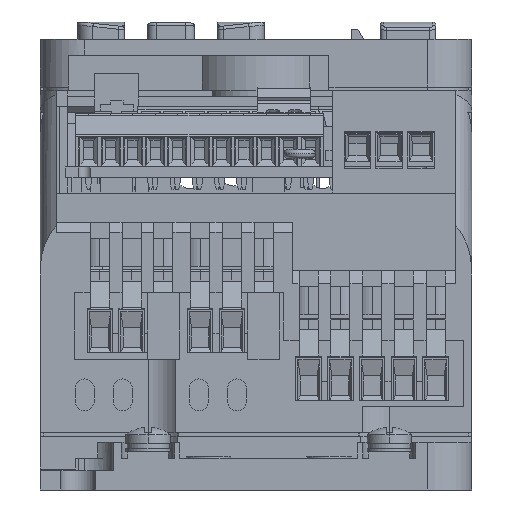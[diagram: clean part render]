
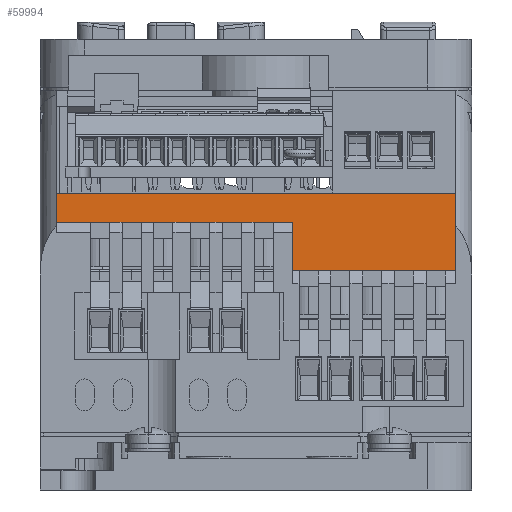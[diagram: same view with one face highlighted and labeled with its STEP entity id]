
A CAD part, front view. The second image highlights one B-rep face of the part: STEP entity #59994.
In plain terms, the highlighted planar face has unit normal (0, -1, 0).
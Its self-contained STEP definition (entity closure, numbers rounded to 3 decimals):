
#5841=DIRECTION('',(-1.,0.,0.));
#5842=VECTOR('',#5841,37.2);
#5843=CARTESIAN_POINT('',(5.7,22.5,47.2));
#5844=LINE('',#5843,#5842);
#6517=DIRECTION('',(0.,0.,-1.));
#6518=VECTOR('',#6517,4.6);
#6519=CARTESIAN_POINT('',(-31.5,22.5,51.8));
#6520=LINE('',#6519,#6518);
#12399=DIRECTION('',(1.,0.,0.));
#12400=VECTOR('',#12399,63.);
#12401=CARTESIAN_POINT('',(-31.5,22.5,51.8));
#12402=LINE('',#12401,#12400);
#12403=DIRECTION('',(0.,0.,-1.));
#12404=VECTOR('',#12403,12.2);
#12405=CARTESIAN_POINT('',(31.5,22.5,51.8));
#12406=LINE('',#12405,#12404);
#12415=DIRECTION('',(0.,0.,-1.));
#12416=VECTOR('',#12415,7.6);
#12417=CARTESIAN_POINT('',(5.7,22.5,47.2));
#12418=LINE('',#12417,#12416);
#12439=DIRECTION('',(-1.,0.,0.));
#12440=VECTOR('',#12439,25.8);
#12441=CARTESIAN_POINT('',(31.5,22.5,39.6));
#12442=LINE('',#12441,#12440);
#36202=CARTESIAN_POINT('',(31.5,22.5,39.6));
#36203=CARTESIAN_POINT('',(5.7,22.5,39.6));
#36204=VERTEX_POINT('',#36202);
#36205=VERTEX_POINT('',#36203);
#36206=CARTESIAN_POINT('',(31.5,22.5,51.8));
#36207=VERTEX_POINT('',#36206);
#36392=CARTESIAN_POINT('',(5.7,22.5,47.2));
#36393=VERTEX_POINT('',#36392);
#36394=CARTESIAN_POINT('',(-31.5,22.5,47.2));
#36395=VERTEX_POINT('',#36394);
#36396=CARTESIAN_POINT('',(-31.5,22.5,51.8));
#36397=VERTEX_POINT('',#36396);
#59979=CARTESIAN_POINT('',(31.5,22.5,51.8));
#59980=DIRECTION('',(0.,1.,0.));
#59981=DIRECTION('',(-1.,0.,0.));
#59982=AXIS2_PLACEMENT_3D('',#59979,#59980,#59981);
#59983=PLANE('',#59982);
#59985=ORIENTED_EDGE('',*,*,#59984,.F.);
#59986=ORIENTED_EDGE('',*,*,#46944,.T.);
#59987=ORIENTED_EDGE('',*,*,#48595,.F.);
#59988=ORIENTED_EDGE('',*,*,#43822,.T.);
#59989=ORIENTED_EDGE('',*,*,#45314,.T.);
#59991=ORIENTED_EDGE('',*,*,#59990,.T.);
#59992=EDGE_LOOP('',(#59985,#59986,#59987,#59988,#59989,#59991));
#59993=FACE_OUTER_BOUND('',#59992,.F.);
#43822=EDGE_CURVE('',#36397,#36207,#12402,.T.);
#45314=EDGE_CURVE('',#36207,#36204,#12406,.T.);
#46944=EDGE_CURVE('',#36393,#36395,#5844,.T.);
#48595=EDGE_CURVE('',#36397,#36395,#6520,.T.);
#59984=EDGE_CURVE('',#36393,#36205,#12418,.T.);
#59990=EDGE_CURVE('',#36204,#36205,#12442,.T.);
#59994=ADVANCED_FACE('',(#59993),#59983,.F.);
